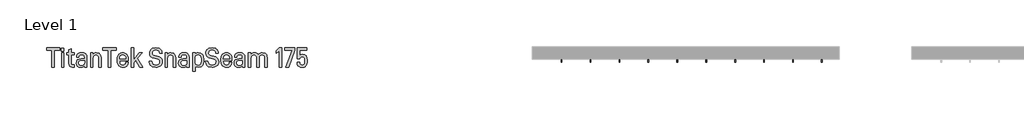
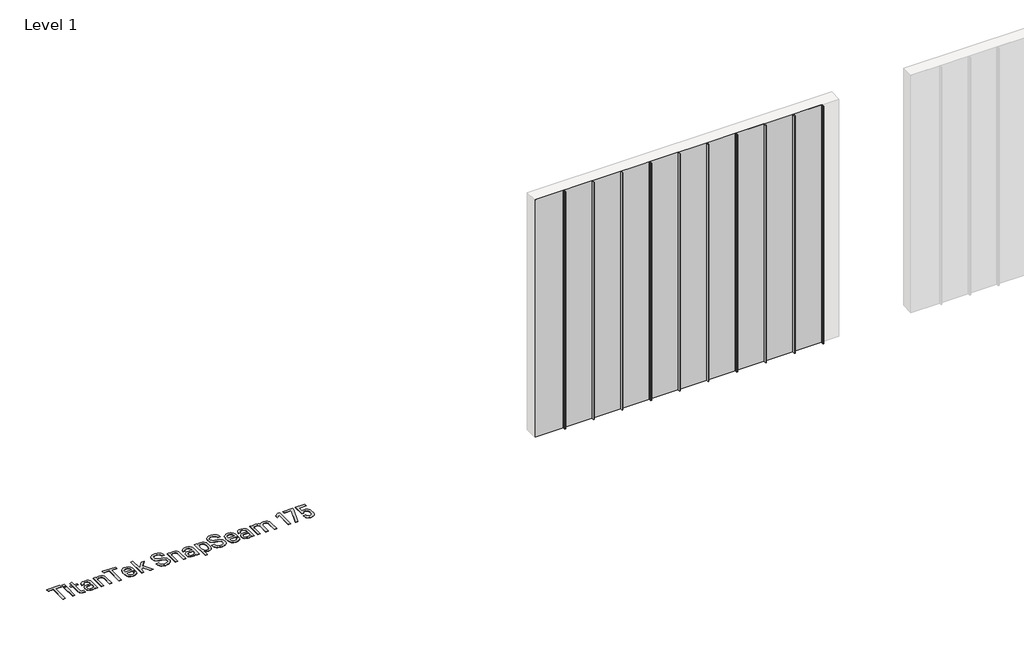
# One storey, part 21 of 33: 2 proxies.
"""IFC4 building model written with IfcOpenShell, lengths in millimetres."""

from ifc_helpers import new_model, si_unit, origin, origin_with_axes, place, context, project, spatial, polyline, outline, extrude, transform, mapped, element, save
from components import titantek_snapseam_175_panel_aluminum_slate_gray_91694518

model = new_model("IFC4")

# Units and contexts
model_context = context("Model", 3, world=origin())
ifc_project = project(units=[si_unit("LENGTHUNIT", "METRE", prefix="MILLI")], contexts=[model_context])

# Site, building, storey
site = spatial("IfcSite", under=ifc_project)
building = spatial("IfcBuilding", under=site)
storey = spatial("IfcBuildingStorey", under=building, Name="Level 1", Elevation=0.0)

# Proxies
placement = place(None, origin())
element("IfcBuildingElementProxy", 1, Name="600mm Arial 2", ObjectType="600mm Arial 2", at=placement, inside=storey, context=model_context, shape_type="SweptSolid", body=[
    extrude(outline(polyline([(-9914.9924556, 67220.4128343), (-9914.9924556, 66952.9873502), (-9954.4439015, 66952.9873502), (-9954.4439015, 67220.4128343), (-10038.8787304, 67220.4128343), (-10038.8787304, 67257.3166776), (-9830.5576267, 67257.3166776), (-9830.5576267, 67220.4128343), (-9914.9924556, 67220.4128343)])), origin_with_axes(), (0.0, 0.0, 1.0), 5.0),
    extrude(outline(polyline([(-9763.1553408, 67253.0221475), (-9763.1553408, 67205.8551051), (-9802.6067867, 67205.8551051), (-9802.6067867, 67253.0221475), (-9763.1553408, 67253.0221475)])), origin_with_axes(), (0.0, 0.0, 1.0), 5.0),
    extrude(outline(polyline([(-9764.0288046, 67178.8505176), (-9764.0288046, 66952.9873502), (-9801.733323, 66952.9873502), (-9801.733323, 67178.8505176), (-9764.0288046, 67178.8505176)])), origin_with_axes(), (0.0, 0.0, 1.0), 5.0),
    extrude(outline(polyline([(-9648.294858, 67012.601251), (-9646.8208879, 67001.5191797), (-9642.3989777, 66993.6034145), (-9635.0291273, 66988.8539554), (-9624.7113368, 66987.2708023), (-9603.2386864, 66987.2708023), (-9603.2386864, 66952.9873502), (-9629.3698101, 66952.9873502), (-9653.1535001, 66956.9543314), (-9671.3688587, 66968.855275), (-9682.6692959, 66987.3981825), (-9686.4361083, 67011.2910554), (-9686.4361083, 67147.1146681), (-9720.2828285, 67147.1146681), (-9720.2828285, 67178.8505176), (-9686.4361083, 67178.8505176), (-9686.4361083, 67226.8910237), (-9648.294858, 67244.8698192), (-9648.294858, 67178.8505176), (-9599.3808881, 67178.8505176), (-9599.3808881, 67147.1146681), (-9648.294858, 67147.1146681), (-9648.294858, 67012.601251)])), origin_with_axes(), (0.0, 0.0, 1.0), 5.0),
    extrude(outline(polyline([(-9422.8684225, 67162.1091291), (-9413.2830677, 67151.3409589), (-9406.4363858, 67138.2526505), (-9400.9590402, 67105.1156196), (-9400.9590402, 66952.9873502), (-9438.2996154, 66952.9873502), (-9438.2996154, 66969.2920069), (-9456.7151427, 66956.8451485), (-9473.7476858, 66952.0410978), (-9493.9829293, 66950.4397476), (-9526.0281305, 66954.7160806), (-9550.1029751, 66967.5450794), (-9565.2248162, 66989.3270816), (-9570.2654299, 67018.5699199), (-9565.1338304, 67046.2114081), (-9549.7390318, 67067.4111012), (-9525.063681, 67080.6222403), (-9493.1094655, 67085.0259534), (-9438.7363472, 67085.0259534), (-9438.7363472, 67105.5523515), (-9441.6296959, 67124.441005), (-9450.3097419, 67138.1616647), (-9464.2305704, 67146.1866129), (-9483.7197302, 67148.8615956), (-9502.2262434, 67146.6051476), (-9515.819523, 67139.8358036), (-9524.1720201, 67129.4816187), (-9526.9561857, 67115.4516073), (-9526.9561857, 67109.8468816), (-9563.8600291, 67109.8468816), (-9563.8600291, 67116.2522824), (-9558.4008807, 67143.2932642), (-9542.0234354, 67164.2927885), (-9516.8203668, 67177.4493362), (-9484.1564621, 67181.8348521), (-9448.6719974, 67176.9034213), (-9434.5600987, 67170.7391329), (-9422.8684225, 67162.1091291)]), holes=[polyline([(-9450.6736851, 66994.5496669), (-9441.7206817, 67009.4531421), (-9438.7363472, 67031.0167784), (-9438.7363472, 67054.9642428), (-9488.8149354, 67054.9642428), (-9507.9538, 67052.7168933), (-9521.6244175, 67045.974845), (-9529.826788, 67034.7380979), (-9532.5609115, 67019.0066518), (-9529.8540837, 67003.0522906), (-9521.7336004, 66991.6563182), (-9508.1994616, 66984.8187348), (-9489.2516673, 66982.5395404), (-9466.104878, 66985.542072), (-9450.6736851, 66994.5496669)])]), origin_with_axes(), (0.0, 0.0, 1.0), 5.0),
    extrude(outline(polyline([(-9306.6977441, 67178.8505176), (-9306.6977441, 67160.4349903), (-9288.2822167, 67173.6825238), (-9271.1222935, 67179.4692211), (-9252.2518372, 67181.3981202), (-9219.9154813, 67175.9389718), (-9206.7907787, 67169.1150363), (-9195.6950595, 67159.5615265), (-9187.0650557, 67147.9790333), (-9180.9007673, 67134.1946835), (-9175.9693365, 67100.0204144), (-9175.9693365, 66952.9873502), (-9213.673855, 66952.9873502), (-9213.673855, 67095.7258843), (-9216.6763866, 67118.1083928), (-9225.6839815, 67133.8671346), (-9240.3781893, 67143.4752358), (-9259.567096, 67146.6779363), (-9278.7378056, 67143.4752358), (-9293.3774219, 67133.8671346), (-9303.0401146, 67117.453295), (-9306.2610122, 67095.7258843), (-9306.2610122, 66952.9873502), (-9343.9655306, 66952.9873502), (-9343.9655306, 67178.8505176), (-9306.6977441, 67178.8505176)])), origin_with_axes(), (0.0, 0.0, 1.0), 5.0),
    extrude(outline(polyline([(-9025.2240514, 67220.4128343), (-9025.2240514, 66952.9873502), (-9064.6754974, 66952.9873502), (-9064.6754974, 67220.4128343), (-9149.1103263, 67220.4128343), (-9149.1103263, 67257.3166776), (-8940.7892225, 67257.3166776), (-8940.7892225, 67220.4128343), (-9025.2240514, 67220.4128343)])), origin_with_axes(), (0.0, 0.0, 1.0), 5.0),
    extrude(outline(polyline([(-8884.5235994, 67047.2486463), (-8881.1025331, 67017.8329349), (-8870.8393341, 66998.8805913), (-8854.3527058, 66988.5900965), (-8832.2613519, 66985.1599316), (-8812.990558, 66987.7257314), (-8798.8513635, 66995.4231306), (-8790.1713175, 67007.1966941), (-8787.2779689, 67022.86445), (-8787.2779689, 67028.3963871), (-8750.3741256, 67028.3963871), (-8750.3741256, 67021.9909863), (-8756.0516399, 66992.8391337), (-8763.1485329, 66980.528754), (-8773.084183, 66969.7287387), (-8799.7976159, 66955.2619954), (-8834.3722226, 66950.4397476), (-8853.3222916, 66951.9387388), (-8870.2843206, 66956.4357123), (-8885.2583098, 66963.9306682), (-8898.2442591, 66974.4236064), (-8908.7371973, 66988.0237099), (-8916.2321532, 67004.8401617), (-8920.7291267, 67024.8729617), (-8922.2281179, 67048.1221101), (-8922.2281179, 67085.8266285), (-8920.7314014, 67108.5321367), (-8916.2412518, 67128.1714231), (-8908.7576691, 67144.7444879), (-8898.2806535, 67158.2513309), (-8885.4971476, 67168.5691214), (-8870.7301511, 67175.9389718), (-8853.979664, 67180.360882), (-8835.2456864, 67181.8348521), (-8816.8438069, 67180.360882), (-8800.2161506, 67175.9389718), (-8785.3627176, 67168.5691214), (-8772.2835079, 67158.2513309), (-8761.9657174, 67144.9082623), (-8754.595867, 67128.389789), (-8750.1739568, 67108.6959111), (-8748.6999867, 67085.8266285), (-8748.6999867, 67055.8377065), (-8884.5235994, 67055.8377065), (-8884.5235994, 67047.2486463)]), holes=[polyline([(-8871.2760659, 67133.4304027), (-8881.2117161, 67115.30603), (-8884.5235994, 67086.7000923), (-8786.4045051, 67086.2633604), (-8786.4045051, 67089.6844267), (-8789.6254027, 67116.9255774), (-8799.2880954, 67134.3038665), (-8814.9012599, 67143.5844188), (-8835.2456864, 67146.6779363), (-8855.60831, 67143.3660529), (-8871.2760659, 67133.4304027)])]), origin_with_axes(), (0.0, 0.0, 1.0), 5.0),
    extrude(outline(polyline([(-8663.391694, 67020.3168474), (-8663.391694, 66952.9873502), (-8701.0962125, 66952.9873502), (-8701.0962125, 67257.3166776), (-8663.391694, 67257.3166776), (-8663.391694, 67070.8321675), (-8575.0990669, 67178.8505176), (-8528.3687564, 67178.8505176), (-8602.5403863, 67091.8680861), (-8517.6688255, 66952.9873502), (-8563.5256722, 66952.9873502), (-8627.7980463, 67062.6798392), (-8663.391694, 67020.3168474)])), origin_with_axes(), (0.0, 0.0, 1.0), 5.0),
    extrude(outline(polyline([(-8385.9213769, 66973.1498051), (-8398.1089257, 66986.7931268), (-8407.3030415, 67003.3388959), (-8413.5037243, 67022.7871121), (-8416.710974, 67045.1377756), (-8377.3323167, 67045.1377756), (-8371.7321403, 67019.4388344), (-8358.7894092, 67001.0824478), (-8338.5041236, 66990.0686159), (-8310.8762833, 66986.3973386), (-8282.8344575, 66989.7274191), (-8262.9085658, 66999.7176607), (-8251.0076222, 67015.5855855), (-8247.040641, 67037.4221792), (-8250.1523556, 67057.020522), (-8259.4874994, 67071.2688994), (-8275.7375646, 67081.0225779), (-8298.8661567, 67087.1368241), (-8332.3489337, 67092.7415498), (-8365.1220214, 67102.3678482), (-8389.7791751, 67118.4359417), (-8398.7594743, 67129.313295), (-8405.1739737, 67142.2196317), (-8410.3055732, 67174.1192557), (-8408.563195, 67193.5902184), (-8403.3360604, 67210.8047331), (-8394.6241693, 67225.7627997), (-8382.4275219, 67238.4644184), (-8367.6923705, 67248.4000685), (-8350.8554469, 67255.4969615), (-8310.8762833, 67261.1744758), (-8273.7176797, 67255.8063132), (-8257.7860648, 67249.0961099), (-8243.6195747, 67239.7018254), (-8231.1818149, 67226.8455308), (-8221.7465867, 67210.9867047), (-8215.3138901, 67192.1253469), (-8211.8837252, 67170.2614574), (-8251.3351711, 67170.2614574), (-8256.2029118, 67194.4636821), (-8267.8217994, 67211.7509854), (-8286.1918338, 67222.1233674), (-8311.3130151, 67225.5808281), (-8337.225773, 67222.2507476), (-8355.8596662, 67212.260506), (-8367.4330609, 67196.6473415), (-8371.2908591, 67176.302915), (-8368.3975105, 67158.5060912), (-8359.7174645, 67145.4405293), (-8344.2862716, 67135.9052167), (-8322.012946, 67129.5726045), (-8287.7294939, 67123.6039356), (-8253.6644078, 67113.613694), (-8228.6251137, 67096.5993481), (-8219.4218993, 67085.285263), (-8212.8481748, 67071.9421944), (-8207.5891951, 67039.1691067), (-8209.3861648, 67019.1567784), (-8214.7770739, 67001.555574), (-8223.7619223, 66986.3654935), (-8236.3407101, 66973.586537), (-8251.7264101, 66963.4598166), (-8269.6415155, 66956.226445), (-8290.0860263, 66951.886422), (-8313.0599426, 66950.4397476), (-8353.9853586, 66956.117262), (-8371.0770425, 66963.2141549), (-8385.9213769, 66973.1498051)])), origin_with_axes(), (0.0, 0.0, 1.0), 5.0),
    extrude(outline(polyline([(-8128.1039941, 67178.8505176), (-8128.1039941, 67160.4349903), (-8109.6884667, 67173.6825238), (-8092.5285435, 67179.4692211), (-8073.6580872, 67181.3981202), (-8041.3217313, 67175.9389718), (-8028.1970287, 67169.1150363), (-8017.1013095, 67159.5615265), (-8008.4713057, 67147.9790333), (-8002.3070173, 67134.1946835), (-7997.3755865, 67100.0204144), (-7997.3755865, 66952.9873502), (-8035.080105, 66952.9873502), (-8035.080105, 67095.7258843), (-8038.0826366, 67118.1083928), (-8047.0902315, 67133.8671346), (-8061.7844393, 67143.4752358), (-8080.973346, 67146.6779363), (-8100.1440556, 67143.4752358), (-8114.7836719, 67133.8671346), (-8124.4463646, 67117.453295), (-8127.6672622, 67095.7258843), (-8127.6672622, 66952.9873502), (-8165.3717806, 66952.9873502), (-8165.3717806, 67178.8505176), (-8128.1039941, 67178.8505176)])), origin_with_axes(), (0.0, 0.0, 1.0), 5.0),
    extrude(outline(polyline([(-7806.3781804, 67162.1091291), (-7796.7928256, 67151.3409589), (-7789.9461437, 67138.2526505), (-7784.4687981, 67105.1156196), (-7784.4687981, 66952.9873502), (-7821.8093733, 66952.9873502), (-7821.8093733, 66969.2920069), (-7840.2249006, 66956.8451485), (-7857.2574437, 66952.0410978), (-7877.4926872, 66950.4397476), (-7909.5378884, 66954.7160806), (-7933.612733, 66967.5450794), (-7948.7345741, 66989.3270816), (-7953.7751878, 67018.5699199), (-7948.6435883, 67046.2114081), (-7933.2487897, 67067.4111012), (-7908.5734389, 67080.6222403), (-7876.6192234, 67085.0259534), (-7822.2461052, 67085.0259534), (-7822.2461052, 67105.5523515), (-7825.1394538, 67124.441005), (-7833.8194998, 67138.1616647), (-7847.7403283, 67146.1866129), (-7867.2294882, 67148.8615956), (-7885.7360013, 67146.6051476), (-7899.3292809, 67139.8358036), (-7907.681778, 67129.4816187), (-7910.4659437, 67115.4516073), (-7910.4659437, 67109.8468816), (-7947.369787, 67109.8468816), (-7947.369787, 67116.2522824), (-7941.9106386, 67143.2932642), (-7925.5331933, 67164.2927885), (-7900.3301248, 67177.4493362), (-7867.66622, 67181.8348521), (-7832.1817553, 67176.9034213), (-7818.0698566, 67170.7391329), (-7806.3781804, 67162.1091291)]), holes=[polyline([(-7834.183443, 66994.5496669), (-7825.2304396, 67009.4531421), (-7822.2461052, 67031.0167784), (-7822.2461052, 67054.9642428), (-7872.3246933, 67054.9642428), (-7891.4635579, 67052.7168933), (-7905.1341754, 67045.974845), (-7913.3365459, 67034.7380979), (-7916.0706694, 67019.0066518), (-7913.3638416, 67003.0522906), (-7905.2433583, 66991.6563182), (-7891.7092195, 66984.8187348), (-7872.7614252, 66982.5395404), (-7849.6146359, 66985.542072), (-7834.183443, 66994.5496669)])]), origin_with_axes(), (0.0, 0.0, 1.0), 5.0),
    extrude(outline(polyline([(-7580.0782812, 67158.6880628), (-7570.3337012, 67145.9455005), (-7563.373287, 67129.9911392), (-7559.1970384, 67110.824979), (-7557.8049556, 67088.4470198), (-7557.8049556, 67043.82758), (-7563.264104, 67002.1742775), (-7570.0880395, 66986.0834375), (-7579.6415493, 66973.1498051), (-7591.310479, 66963.2141549), (-7604.4806746, 66956.117262), (-7635.3248632, 66950.4397476), (-7666.5147978, 66955.8988961), (-7679.1345293, 66962.7228316), (-7689.7707701, 66972.2763413), (-7689.7707701, 66887.8415124), (-7727.4752885, 66887.8415124), (-7727.4752885, 67178.8505176), (-7689.7707701, 67178.8505176), (-7689.7707701, 67158.2513309), (-7673.1021703, 67172.4451168), (-7656.4881619, 67179.1598694), (-7637.5085226, 67181.3981202), (-7605.3541383, 67175.7206059), (-7591.8563939, 67168.6237129), (-7580.0782812, 67158.6880628)]), holes=[polyline([(-7595.509474, 67045.5745075), (-7595.509474, 67086.2633604), (-7598.3755269, 67112.6947373), (-7606.9736857, 67131.5742923), (-7621.3039503, 67142.9020253), (-7641.3663208, 67146.6779363), (-7662.1474791, 67142.6199693), (-7677.3239117, 67130.4460683), (-7686.6590555, 67110.0652475), (-7689.7707701, 67084.1524897), (-7689.7707701, 67046.0112394), (-7686.5589711, 67021.2540013), (-7676.9235742, 67001.8649258), (-7661.173931, 66989.3361801), (-7639.6193933, 66985.1599316), (-7620.3213036, 66988.9358426), (-7606.5369538, 67000.2635756), (-7598.266344, 67019.1431305), (-7595.509474, 67045.5745075)])]), origin_with_axes(), (0.0, 0.0, 1.0), 5.0),
    extrude(outline(polyline([(-7496.1529727, 66973.1498051), (-7508.3405216, 66986.7931268), (-7517.5346374, 67003.3388959), (-7523.7353201, 67022.7871121), (-7526.9425698, 67045.1377756), (-7487.5639126, 67045.1377756), (-7481.9637361, 67019.4388344), (-7469.0210051, 67001.0824478), (-7448.7357194, 66990.0686159), (-7421.1078791, 66986.3973386), (-7393.0660534, 66989.7274191), (-7373.1401616, 66999.7176607), (-7361.2392181, 67015.5855855), (-7357.2722369, 67037.4221792), (-7360.3839515, 67057.020522), (-7369.7190953, 67071.2688994), (-7385.9691604, 67081.0225779), (-7409.0977526, 67087.1368241), (-7442.5805296, 67092.7415498), (-7475.3536173, 67102.3678482), (-7500.010771, 67118.4359417), (-7508.9910701, 67129.313295), (-7515.4055695, 67142.2196317), (-7520.537169, 67174.1192557), (-7518.7947908, 67193.5902184), (-7513.5676562, 67210.8047331), (-7504.8557652, 67225.7627997), (-7492.6591178, 67238.4644184), (-7477.9239663, 67248.4000685), (-7461.0870427, 67255.4969615), (-7421.1078791, 67261.1744758), (-7383.9492755, 67255.8063132), (-7368.0176607, 67249.0961099), (-7353.8511705, 67239.7018254), (-7341.4134107, 67226.8455308), (-7331.9781825, 67210.9867047), (-7325.545486, 67192.1253469), (-7322.115321, 67170.2614574), (-7361.566767, 67170.2614574), (-7366.4345077, 67194.4636821), (-7378.0533952, 67211.7509854), (-7396.4234297, 67222.1233674), (-7421.544611, 67225.5808281), (-7447.4573688, 67222.2507476), (-7466.0912621, 67212.260506), (-7477.6646568, 67196.6473415), (-7481.522455, 67176.302915), (-7478.6291063, 67158.5060912), (-7469.9490603, 67145.4405293), (-7454.5178674, 67135.9052167), (-7432.2445419, 67129.5726045), (-7397.9610898, 67123.6039356), (-7363.8960036, 67113.613694), (-7338.8567095, 67096.5993481), (-7329.6534952, 67085.285263), (-7323.0797706, 67071.9421944), (-7317.820791, 67039.1691067), (-7319.6177606, 67019.1567784), (-7325.0086697, 67001.555574), (-7333.9935182, 66986.3654935), (-7346.572306, 66973.586537), (-7361.9580059, 66963.4598166), (-7379.8731114, 66956.226445), (-7400.3176222, 66951.886422), (-7423.2915385, 66950.4397476), (-7464.2169545, 66956.117262), (-7481.3086383, 66963.2141549), (-7496.1529727, 66973.1498051)])), origin_with_axes(), (0.0, 0.0, 1.0), 5.0),
    extrude(outline(polyline([(-7244.7409907, 67047.2486463), (-7241.3199244, 67017.8329349), (-7231.0567254, 66998.8805913), (-7214.5700971, 66988.5900965), (-7192.4787432, 66985.1599316), (-7173.2079493, 66987.7257314), (-7159.0687548, 66995.4231306), (-7150.3887089, 67007.1966941), (-7147.4953602, 67022.86445), (-7147.4953602, 67028.3963871), (-7110.5915169, 67028.3963871), (-7110.5915169, 67021.9909863), (-7116.2690312, 66992.8391337), (-7123.3659242, 66980.528754), (-7133.3015743, 66969.7287387), (-7160.0150072, 66955.2619954), (-7194.5896139, 66950.4397476), (-7213.5396829, 66951.9387388), (-7230.5017119, 66956.4357123), (-7245.4757011, 66963.9306682), (-7258.4616504, 66974.4236064), (-7268.9545886, 66988.0237099), (-7276.4495445, 67004.8401617), (-7280.946518, 67024.8729617), (-7282.4455092, 67048.1221101), (-7282.4455092, 67085.8266285), (-7280.9487927, 67108.5321367), (-7276.4586431, 67128.1714231), (-7268.9750604, 67144.7444879), (-7258.4980448, 67158.2513309), (-7245.7145389, 67168.5691214), (-7230.9475424, 67175.9389718), (-7214.1970553, 67180.360882), (-7195.4630777, 67181.8348521), (-7177.0611982, 67180.360882), (-7160.4335419, 67175.9389718), (-7145.5801089, 67168.5691214), (-7132.5008992, 67158.2513309), (-7122.1831087, 67144.9082623), (-7114.8132583, 67128.389789), (-7110.3913481, 67108.6959111), (-7108.917378, 67085.8266285), (-7108.917378, 67055.8377065), (-7244.7409907, 67055.8377065), (-7244.7409907, 67047.2486463)]), holes=[polyline([(-7231.4934572, 67133.4304027), (-7241.4291074, 67115.30603), (-7244.7409907, 67086.7000923), (-7146.6218964, 67086.2633604), (-7146.6218964, 67089.6844267), (-7149.842794, 67116.9255774), (-7159.5054867, 67134.3038665), (-7175.1186512, 67143.5844188), (-7195.4630777, 67146.6779363), (-7215.8257013, 67143.3660529), (-7231.4934572, 67133.4304027)])]), origin_with_axes(), (0.0, 0.0, 1.0), 5.0),
    extrude(outline(polyline([(-6925.9267229, 67162.1091291), (-6916.3413681, 67151.3409589), (-6909.4946861, 67138.2526505), (-6904.0173406, 67105.1156196), (-6904.0173406, 66952.9873502), (-6941.3579158, 66952.9873502), (-6941.3579158, 66969.2920069), (-6959.7734431, 66956.8451485), (-6976.8059862, 66952.0410978), (-6997.0412297, 66950.4397476), (-7029.0864309, 66954.7160806), (-7053.1612755, 66967.5450794), (-7068.2831166, 66989.3270816), (-7073.3237303, 67018.5699199), (-7068.1921308, 67046.2114081), (-7052.7973322, 67067.4111012), (-7028.1219814, 67080.6222403), (-6996.1677659, 67085.0259534), (-6941.7946476, 67085.0259534), (-6941.7946476, 67105.5523515), (-6944.6879963, 67124.441005), (-6953.3680423, 67138.1616647), (-6967.2888708, 67146.1866129), (-6986.7780306, 67148.8615956), (-7005.2845438, 67146.6051476), (-7018.8778234, 67139.8358036), (-7027.2303204, 67129.4816187), (-7030.0144861, 67115.4516073), (-7030.0144861, 67109.8468816), (-7066.9183295, 67109.8468816), (-7066.9183295, 67116.2522824), (-7061.4591811, 67143.2932642), (-7045.0817358, 67164.2927885), (-7019.8786672, 67177.4493362), (-6987.2147625, 67181.8348521), (-6951.7302978, 67176.9034213), (-6937.6183991, 67170.7391329), (-6925.9267229, 67162.1091291)]), holes=[polyline([(-6953.7319855, 66994.5496669), (-6944.7789821, 67009.4531421), (-6941.7946476, 67031.0167784), (-6941.7946476, 67054.9642428), (-6991.8732358, 67054.9642428), (-7011.0121003, 67052.7168933), (-7024.6827179, 67045.974845), (-7032.8850884, 67034.7380979), (-7035.6192119, 67019.0066518), (-7032.9123841, 67003.0522906), (-7024.7919008, 66991.6563182), (-7011.257762, 66984.8187348), (-6992.3099677, 66982.5395404), (-6969.1631784, 66985.542072), (-6953.7319855, 66994.5496669)])]), origin_with_axes(), (0.0, 0.0, 1.0), 5.0),
    extrude(outline(polyline([(-6809.7560445, 67178.8505176), (-6809.7560445, 67159.9982584), (-6791.3405171, 67173.3185806), (-6774.3989599, 67179.3782353), (-6755.3101375, 67181.3981202), (-6733.6737126, 67178.9415034), (-6715.0580165, 67171.5716531), (-6702.938707, 67162.1455234), (-6692.3479591, 67149.2983275), (-6679.8965514, 67163.3419868), (-6664.8156539, 67173.373172), (-6647.1052665, 67179.3918832), (-6626.7653894, 67181.3981202), (-6594.2834563, 67175.9389718), (-6581.0313735, 67169.1150363), (-6569.7718798, 67159.5615265), (-6560.7597357, 67147.9790333), (-6554.3224898, 67134.1946835), (-6549.1726931, 67100.0204144), (-6549.1726931, 66952.9873502), (-6586.8772116, 66952.9873502), (-6586.8772116, 67095.7258843), (-6589.8797432, 67118.1083928), (-6598.8873381, 67133.8671346), (-6613.0265325, 67143.4752358), (-6632.2973264, 67146.6779363), (-6652.0412466, 67143.4752358), (-6666.5807785, 67133.8671346), (-6675.9159223, 67117.7626468), (-6679.0276369, 67096.9632913), (-6679.0276369, 66952.9873502), (-6717.1688872, 66952.9873502), (-6717.1688872, 67095.7258843), (-6720.1714189, 67118.1083928), (-6729.1790138, 67133.8671346), (-6743.3182082, 67143.4752358), (-6762.5890021, 67146.6779363), (-6781.7870074, 67143.4752358), (-6796.4357223, 67133.8671346), (-6806.098415, 67117.453295), (-6809.3193126, 67095.7258843), (-6809.3193126, 66952.9873502), (-6847.023831, 66952.9873502), (-6847.023831, 67178.8505176), (-6809.7560445, 67178.8505176)])), origin_with_axes(), (0.0, 0.0, 1.0), 5.0),
    extrude(outline(polyline([(-6410.5103232, 67170.2614574), (-6410.5103232, 67216.1183042), (-6356.93788, 67257.3166776), (-6320.1068253, 67257.3166776), (-6320.1068253, 66952.9873502), (-6359.5582713, 66952.9873502), (-6359.5582713, 67208.4027077), (-6410.5103232, 67170.2614574)])), origin_with_axes(), (0.0, 0.0, 1.0), 5.0),
    extrude(outline(polyline([(-6116.0802516, 67223.8339006), (-6213.7626141, 66952.9873502), (-6254.0875238, 66952.9873502), (-6156.3323727, 67220.4128343), (-6275.0506537, 67220.4128343), (-6275.0506537, 67257.3166776), (-6116.0802516, 67257.3166776), (-6116.0802516, 67223.8339006)])), origin_with_axes(), (0.0, 0.0, 1.0), 5.0),
    extrude(outline(polyline([(-6056.1751963, 66968.4185431), (-6065.5376358, 66978.9728967), (-6072.2250927, 66991.3469665), (-6077.5750581, 67021.5542544), (-6077.5750581, 67031.4535102), (-6038.9970759, 67031.4535102), (-6038.9970759, 67024.1746457), (-6036.4312762, 67007.7426089), (-6028.7338769, 66995.4231306), (-6015.8866809, 66988.0532803), (-5998.7449549, 66985.5966635), (-5980.9435817, 66988.8084625), (-5968.2283152, 66998.4438594), (-5960.5991553, 67014.5028544), (-5958.056102, 67036.9854473), (-5958.056102, 67064.8634986), (-5960.5127188, 67088.2286538), (-5967.8825691, 67104.3149445), (-5980.1838503, 67113.5954968), (-5998.308223, 67116.6890143), (-6011.7013338, 67114.8692981), (-6022.765208, 67109.4101497), (-6031.9729716, 67099.8748371), (-6038.1964008, 67086.7000923), (-6072.9165848, 67086.7000923), (-6072.9165848, 67257.3166776), (-5922.8991862, 67257.3166776), (-5922.8991862, 67219.9761024), (-6035.5760096, 67219.9761024), (-6035.5760096, 67139.8358036), (-6021.8917442, 67147.9881319), (-5994.0136929, 67153.5928576), (-5976.3124042, 67152.1461833), (-5960.9130563, 67147.8061603), (-5947.8156494, 67140.5727886), (-5937.0201834, 67130.4460683), (-5922.880989, 67103.1139318), (-5918.1679242, 67066.5376374), (-5918.1679242, 67034.4378447), (-5923.5269882, 66998.5166481), (-5930.2258183, 66983.8588346), (-5939.6041803, 66971.4028776), (-5951.311779, 66961.4672275), (-5964.9983191, 66954.3703345), (-5998.308223, 66948.6928201), (-6031.1904937, 66953.6242509), (-6056.1751963, 66968.4185431)])), origin_with_axes(), (0.0, 0.0, 1.0), 5.0),
])
titantek_snapseam_175_panel_aluminum_slate_gray_shape = titantek_snapseam_175_panel_aluminum_slate_gray_91694518(model_context)
element("IfcBuildingElementProxy", 2, Name="TitanTek SnapSeam 175 Panel : Aluminum Slate Gray", ObjectType="TitanTek SnapSeam 175 Panel : Aluminum Slate Gray", at=placement, inside=storey, context=model_context, shape_type="MappedRepresentation", body=[
    mapped(titantek_snapseam_175_panel_aluminum_slate_gray_shape, transform((-2360.5897817, 67078.6095025, 0.0), x_axis=(1.0, 0.0, 0.0), y_axis=(0.0, 1.0, 0.0), z_axis=(0.0, 0.0, 1.0))),
])

save(model, "model.ifc")
